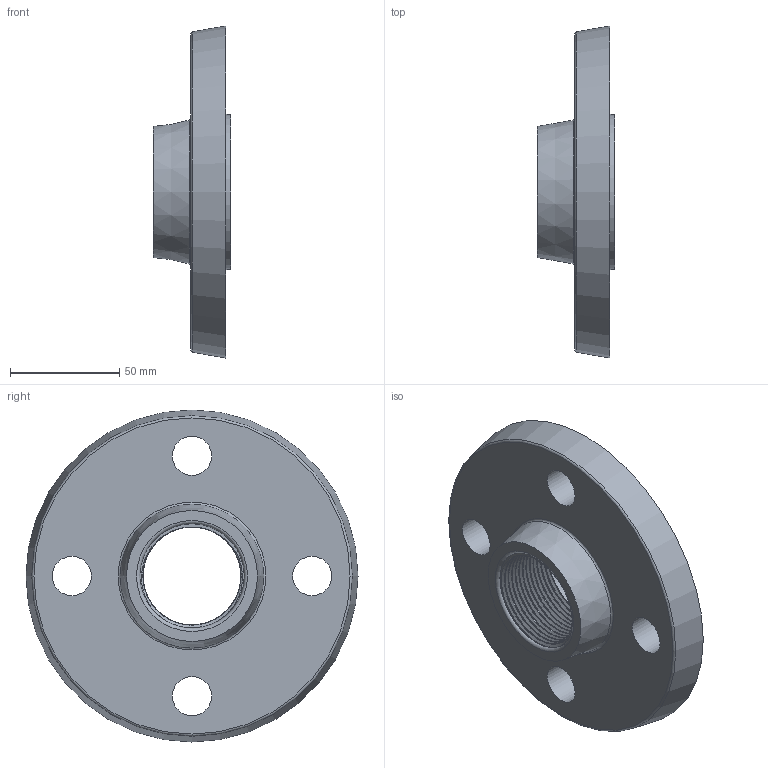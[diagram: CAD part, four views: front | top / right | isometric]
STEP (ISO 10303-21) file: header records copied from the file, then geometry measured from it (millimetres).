
FILE_DESCRIPTION(/* description */ (''),/* implementation_level */ '2;1');
FILE_NAME(/* name */ 'C:\Users\Gabriele\Desktop\disegni 3D\FF01\FF010500.ipt.stp',/* time_stamp */ '2017-01-25T17:53:38+01:00',/* author */ ('Gabriele'),/* organization */ (''),/* preprocessor_version */ 'ST-DEVELOPER v16.5',/* originating_system */ 'Autodesk Inventor 2017',/* authorisation */ '');
FILE_SCHEMA (('AUTOMOTIVE_DESIGN { 1 0 10303 214 3 1 1 }'));
Length unit declared in the file: millimetre
Products named in the file (1): FF010500
Bounding box: 35.5 x 152 x 152 mm (x, y, z)
Volume: 213287.7 mm3; surface area: 73661.2 mm2
Topology: 2 solids, 2 shells, 419 faces, 871 edges, 481 vertices
Faces by surface type: torus 159, cylinder 151, sphere 56, plane 45, bspline 6, cone 2
Full cylindrical faces by diameter (mm): 18 x4, 47.8 x2, 48 x1, 51.286 x1, 54.571 x1, 57.857 x1, 61.143 x1, 64.429 x1, 67.714 x1, 71 x1
Entity records: 16983 total; most frequent: CARTESIAN_POINT 7818, DIRECTION 2262, ORIENTED_EDGE 1688, AXIS2_PLACEMENT_3D 1039, EDGE_CURVE 844, CIRCLE 625, EDGE_LOOP 479, VERTEX_POINT 477
